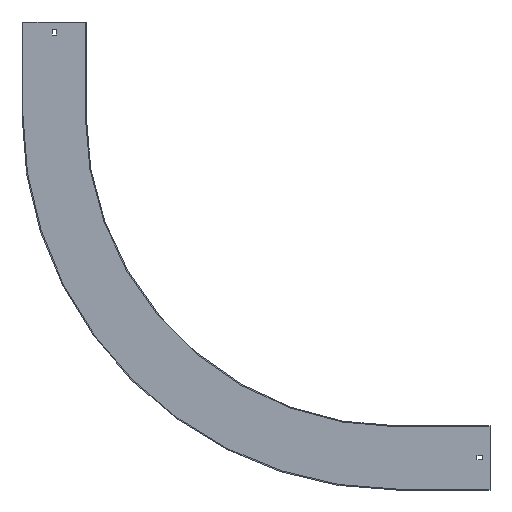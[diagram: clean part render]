
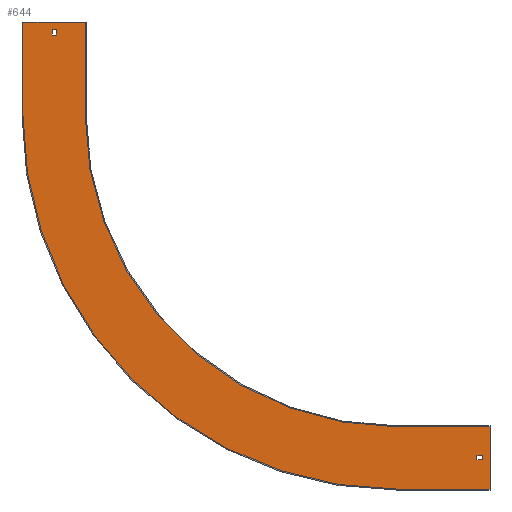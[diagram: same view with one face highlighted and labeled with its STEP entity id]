
A CAD part, front view. The second image highlights one B-rep face of the part: STEP entity #644.
In plain terms, the highlighted planar face has unit normal (0, -1, 0).
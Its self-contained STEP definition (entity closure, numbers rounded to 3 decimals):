
#17 = VERTEX_POINT ( 'NONE', #254 ) ;
#22 = DIRECTION ( 'NONE',  ( 0., 0., -1. ) ) ;
#33 = DIRECTION ( 'NONE',  ( 1., 0., 0. ) ) ;
#34 = VECTOR ( 'NONE', #302, 1000. ) ;
#39 = LINE ( 'NONE', #700, #709 ) ;
#41 = CARTESIAN_POINT ( 'NONE',  ( -553.25, -1.5, 0. ) ) ;
#48 = VERTEX_POINT ( 'NONE', #784 ) ;
#53 = DIRECTION ( 'NONE',  ( 1., 0., 0. ) ) ;
#54 = ORIENTED_EDGE ( 'NONE', *, *, #146, .F. ) ;
#77 = CARTESIAN_POINT ( 'NONE',  ( 138., -1.5, -553.25 ) ) ;
#78 = VERTEX_POINT ( 'NONE', #461 ) ;
#82 = ORIENTED_EDGE ( 'NONE', *, *, #133, .T. ) ;
#93 = DIRECTION ( 'NONE',  ( 0., 0., -1. ) ) ;
#94 = DIRECTION ( 'NONE',  ( 0., -1., 0. ) ) ;
#96 = ORIENTED_EDGE ( 'NONE', *, *, #425, .T. ) ;
#100 = ORIENTED_EDGE ( 'NONE', *, *, #807, .T. ) ;
#106 = VERTEX_POINT ( 'NONE', #814 ) ;
#108 = CARTESIAN_POINT ( 'NONE',  ( 150., -1.5, -498.5 ) ) ;
#130 = CARTESIAN_POINT ( 'NONE',  ( -600., -1.5, 0. ) ) ;
#133 = EDGE_CURVE ( 'NONE', #78, #436, #663, .T. ) ;
#146 = EDGE_CURVE ( 'NONE', #802, #855, #543, .T. ) ;
#151 = LINE ( 'NONE', #336, #212 ) ;
#156 = CARTESIAN_POINT ( 'NONE',  ( -600., -1.5, 150. ) ) ;
#161 = CARTESIAN_POINT ( 'NONE',  ( 0., -1.5, 138. ) ) ;
#163 = EDGE_CURVE ( 'NONE', #412, #594, #151, .T. ) ;
#165 = CARTESIAN_POINT ( 'NONE',  ( 150., -1.5, -600. ) ) ;
#169 = EDGE_CURVE ( 'NONE', #523, #405, #214, .T. ) ;
#171 = FACE_BOUND ( 'NONE', #259, .T. ) ;
#182 = VECTOR ( 'NONE', #33, 1000. ) ;
#185 = VERTEX_POINT ( 'NONE', #568 ) ;
#186 = DIRECTION ( 'NONE',  ( 0., 0., -1. ) ) ;
#194 = VECTOR ( 'NONE', #300, 1000. ) ;
#205 = EDGE_CURVE ( 'NONE', #855, #106, #39, .T. ) ;
#212 = VECTOR ( 'NONE', #661, 1000. ) ;
#214 = LINE ( 'NONE', #410, #550 ) ;
#220 = PLANE ( 'NONE',  #686 ) ;
#226 = DIRECTION ( 'NONE',  ( 0., 0., -1. ) ) ;
#230 = DIRECTION ( 'NONE',  ( 0., -1., 0. ) ) ;
#232 = LINE ( 'NONE', #108, #417 ) ;
#249 = CARTESIAN_POINT ( 'NONE',  ( 0., -1.5, -500. ) ) ;
#254 = CARTESIAN_POINT ( 'NONE',  ( -553.25, -1.5, 129. ) ) ;
#259 = EDGE_LOOP ( 'NONE', ( #668, #578, #694, #722 ) ) ;
#260 = LINE ( 'NONE', #783, #265 ) ;
#262 = EDGE_CURVE ( 'NONE', #465, #745, #440, .T. ) ;
#265 = VECTOR ( 'NONE', #186, 1000. ) ;
#270 = EDGE_CURVE ( 'NONE', #405, #476, #714, .T. ) ;
#280 = DIRECTION ( 'NONE',  ( 0., 0., -1. ) ) ;
#282 = ORIENTED_EDGE ( 'NONE', *, *, #205, .F. ) ;
#296 = CARTESIAN_POINT ( 'NONE',  ( -546.75, -1.5, 0. ) ) ;
#297 = FACE_OUTER_BOUND ( 'NONE', #471, .T. ) ;
#300 = DIRECTION ( 'NONE',  ( 1., 0., 0. ) ) ;
#302 = DIRECTION ( 'NONE',  ( 0., 0., 1. ) ) ;
#332 = VECTOR ( 'NONE', #414, 1000. ) ;
#336 = CARTESIAN_POINT ( 'NONE',  ( 150., -1.5, -600. ) ) ;
#343 = LINE ( 'NONE', #689, #332 ) ;
#356 = CARTESIAN_POINT ( 'NONE',  ( -600., -1.5, 0. ) ) ;
#361 = CARTESIAN_POINT ( 'NONE',  ( 0., -1.5, -600. ) ) ;
#397 = CARTESIAN_POINT ( 'NONE',  ( 0., -1.5, 0. ) ) ;
#398 = ORIENTED_EDGE ( 'NONE', *, *, #163, .F. ) ;
#405 = VERTEX_POINT ( 'NONE', #826 ) ;
#408 = CARTESIAN_POINT ( 'NONE',  ( 0., -1.5, -500. ) ) ;
#410 = CARTESIAN_POINT ( 'NONE',  ( 129., -1.5, 0. ) ) ;
#411 = EDGE_CURVE ( 'NONE', #745, #412, #232, .T. ) ;
#412 = VERTEX_POINT ( 'NONE', #165 ) ;
#414 = DIRECTION ( 'NONE',  ( -1., 0., 0. ) ) ;
#417 = VECTOR ( 'NONE', #832, 1000. ) ;
#418 = AXIS2_PLACEMENT_3D ( 'NONE', #397, #735, #22 ) ;
#423 = CARTESIAN_POINT ( 'NONE',  ( 0., -1.5, 129. ) ) ;
#424 = LINE ( 'NONE', #41, #34 ) ;
#425 = EDGE_CURVE ( 'NONE', #17, #48, #424, .T. ) ;
#436 = VERTEX_POINT ( 'NONE', #439 ) ;
#438 = FACE_BOUND ( 'NONE', #593, .T. ) ;
#439 = CARTESIAN_POINT ( 'NONE',  ( -546.75, -1.5, 129. ) ) ;
#440 = LINE ( 'NONE', #249, #194 ) ;
#449 = CIRCLE ( 'NONE', #554, 500. ) ;
#456 = EDGE_CURVE ( 'NONE', #594, #802, #769, .T. ) ;
#458 = ORIENTED_EDGE ( 'NONE', *, *, #741, .F. ) ;
#461 = CARTESIAN_POINT ( 'NONE',  ( -546.75, -1.5, 138. ) ) ;
#465 = VERTEX_POINT ( 'NONE', #408 ) ;
#471 = EDGE_LOOP ( 'NONE', ( #282, #54, #840, #398, #759, #604, #611, #458 ) ) ;
#476 = VERTEX_POINT ( 'NONE', #77 ) ;
#480 = VECTOR ( 'NONE', #642, 1000. ) ;
#499 = DIRECTION ( 'NONE',  ( -1., 0., 0. ) ) ;
#523 = VERTEX_POINT ( 'NONE', #614 ) ;
#532 = EDGE_CURVE ( 'NONE', #185, #523, #343, .T. ) ;
#543 = LINE ( 'NONE', #130, #854 ) ;
#550 = VECTOR ( 'NONE', #280, 1000. ) ;
#554 = AXIS2_PLACEMENT_3D ( 'NONE', #688, #94, #226 ) ;
#565 = VECTOR ( 'NONE', #499, 1000. ) ;
#568 = CARTESIAN_POINT ( 'NONE',  ( 138., -1.5, -546.75 ) ) ;
#578 = ORIENTED_EDGE ( 'NONE', *, *, #848, .F. ) ;
#593 = EDGE_LOOP ( 'NONE', ( #794, #82, #100, #96 ) ) ;
#594 = VERTEX_POINT ( 'NONE', #361 ) ;
#604 = ORIENTED_EDGE ( 'NONE', *, *, #262, .F. ) ;
#611 = ORIENTED_EDGE ( 'NONE', *, *, #858, .F. ) ;
#614 = CARTESIAN_POINT ( 'NONE',  ( 129., -1.5, -546.75 ) ) ;
#625 = LINE ( 'NONE', #423, #565 ) ;
#642 = DIRECTION ( 'NONE',  ( 1., 0., 0. ) ) ;
#644 = ADVANCED_FACE ( 'NONE', ( #171, #297, #438 ), #220, .T. ) ;
#661 = DIRECTION ( 'NONE',  ( -1., 0., 0. ) ) ;
#663 = LINE ( 'NONE', #296, #809 ) ;
#668 = ORIENTED_EDGE ( 'NONE', *, *, #532, .F. ) ;
#686 = AXIS2_PLACEMENT_3D ( 'NONE', #687, #230, #93 ) ;
#687 = CARTESIAN_POINT ( 'NONE',  ( 0., -1.5, 0. ) ) ;
#688 = CARTESIAN_POINT ( 'NONE',  ( 0., -1.5, 0. ) ) ;
#689 = CARTESIAN_POINT ( 'NONE',  ( 0., -1.5, -546.75 ) ) ;
#694 = ORIENTED_EDGE ( 'NONE', *, *, #270, .F. ) ;
#695 = LINE ( 'NONE', #750, #829 ) ;
#700 = CARTESIAN_POINT ( 'NONE',  ( -601.5, -1.5, 150. ) ) ;
#705 = CARTESIAN_POINT ( 'NONE',  ( 0., -1.5, -553.25 ) ) ;
#709 = VECTOR ( 'NONE', #53, 1000. ) ;
#714 = LINE ( 'NONE', #705, #480 ) ;
#717 = VERTEX_POINT ( 'NONE', #798 ) ;
#722 = ORIENTED_EDGE ( 'NONE', *, *, #169, .F. ) ;
#732 = DIRECTION ( 'NONE',  ( 0., 0., -1. ) ) ;
#735 = DIRECTION ( 'NONE',  ( 0., 1., 0. ) ) ;
#740 = DIRECTION ( 'NONE',  ( 0., 0., 1. ) ) ;
#741 = EDGE_CURVE ( 'NONE', #106, #717, #260, .T. ) ;
#745 = VERTEX_POINT ( 'NONE', #859 ) ;
#750 = CARTESIAN_POINT ( 'NONE',  ( 138., -1.5, 0. ) ) ;
#757 = LINE ( 'NONE', #161, #182 ) ;
#759 = ORIENTED_EDGE ( 'NONE', *, *, #411, .F. ) ;
#769 = CIRCLE ( 'NONE', #418, 600. ) ;
#783 = CARTESIAN_POINT ( 'NONE',  ( -500., -1.5, 150. ) ) ;
#784 = CARTESIAN_POINT ( 'NONE',  ( -553.25, -1.5, 138. ) ) ;
#794 = ORIENTED_EDGE ( 'NONE', *, *, #818, .T. ) ;
#798 = CARTESIAN_POINT ( 'NONE',  ( -500., -1.5, 0. ) ) ;
#802 = VERTEX_POINT ( 'NONE', #356 ) ;
#807 = EDGE_CURVE ( 'NONE', #436, #17, #625, .T. ) ;
#809 = VECTOR ( 'NONE', #732, 1000. ) ;
#814 = CARTESIAN_POINT ( 'NONE',  ( -500., -1.5, 150. ) ) ;
#818 = EDGE_CURVE ( 'NONE', #48, #78, #757, .T. ) ;
#824 = DIRECTION ( 'NONE',  ( 0., 0., 1. ) ) ;
#826 = CARTESIAN_POINT ( 'NONE',  ( 129., -1.5, -553.25 ) ) ;
#829 = VECTOR ( 'NONE', #824, 1000. ) ;
#832 = DIRECTION ( 'NONE',  ( 0., 0., -1. ) ) ;
#840 = ORIENTED_EDGE ( 'NONE', *, *, #456, .F. ) ;
#848 = EDGE_CURVE ( 'NONE', #476, #185, #695, .T. ) ;
#854 = VECTOR ( 'NONE', #740, 1000. ) ;
#855 = VERTEX_POINT ( 'NONE', #156 ) ;
#858 = EDGE_CURVE ( 'NONE', #717, #465, #449, .T. ) ;
#859 = CARTESIAN_POINT ( 'NONE',  ( 150., -1.5, -500. ) ) ;
